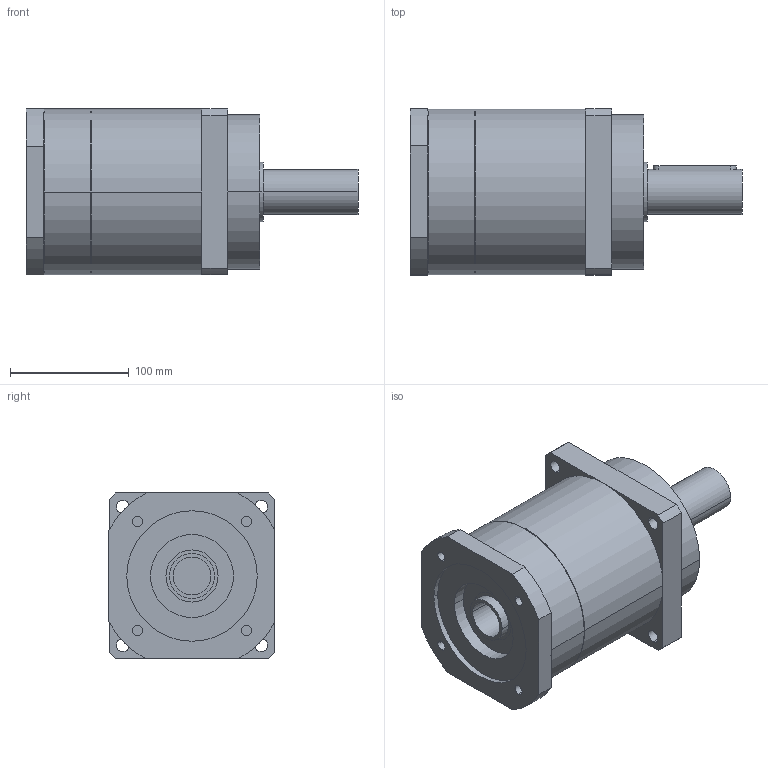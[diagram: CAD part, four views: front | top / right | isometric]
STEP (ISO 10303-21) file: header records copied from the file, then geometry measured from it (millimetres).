
FILE_DESCRIPTION(('CoCreate Modeling STEP Export'),'2;1');
FILE_NAME('GPR150_ig-3-4-5-7_38_B5_32_P04.stp','2014-08-19T16:42:56',(''),(''),'CoCreate Modeling STEP processor for AP214 (Solid Model)','CoCreate Modeling 16.00C 25-Feb-2009 (C) Parametric Technology GmbH','');
FILE_SCHEMA(('AUTOMOTIVE_DESIGN { 1 0 10303 214 1 1 1 1 }'));
Length unit declared in the file: millimetre
Products named in the file (2): GPR150_ig-3-4-5-7_38_B5_32_P04
Assembly tree (1 placements, depth 2):
  GPR150_ig-3-4-5-7_38_B5_32_P04
    GPR150_ig-3-4-5-7_38_B5_32_P04
Bounding box: 280 x 140 x 140 mm (x, y, z)
Volume: 3052251.9 mm3; surface area: 162131.6 mm2
Topology: 1 solids, 1 shells, 97 faces, 263 edges, 177 vertices
Faces by surface type: cylinder 56, plane 35, cone 6
Entity records: 2693 total; most frequent: ORIENTED_EDGE 522, CARTESIAN_POINT 487, DIRECTION 380, EDGE_CURVE 261, VERTEX_POINT 177, AXIS2_PLACEMENT_3D 142, EDGE_LOOP 124, FACE_OUTER_BOUND 97
